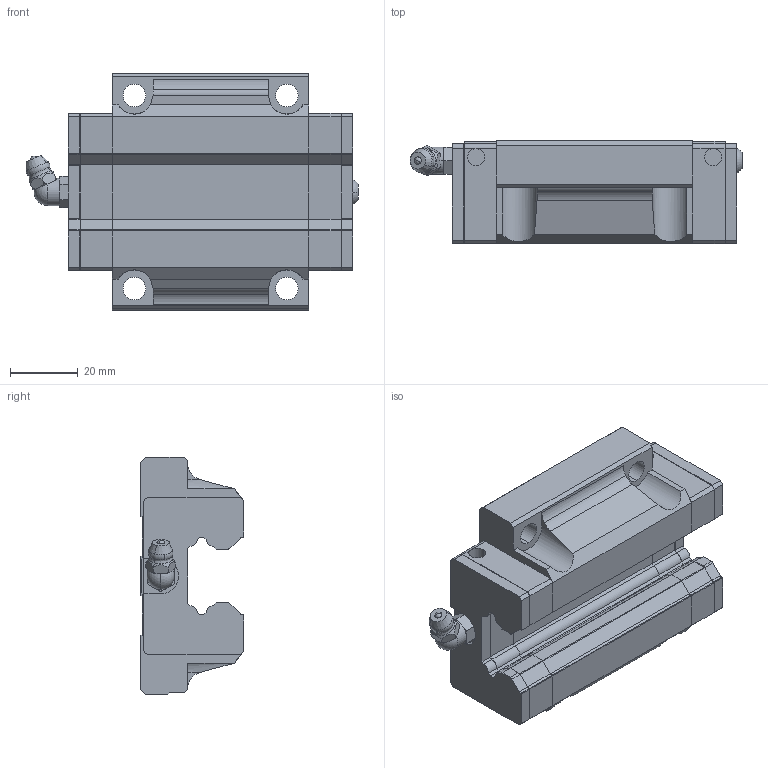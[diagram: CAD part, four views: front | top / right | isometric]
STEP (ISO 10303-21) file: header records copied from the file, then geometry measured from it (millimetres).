
FILE_DESCRIPTION (( 'STEP AP203' ), '1' );
FILE_NAME ('SGW25CA.STEP', '2025-06-27T05:54:31', ( 'Owner' ), ( 'Organization' ), 'SwSTEP 2.0', 'SolidWorks 2020', '' );
FILE_SCHEMA (( 'CONFIG_CONTROL_DESIGN' ));
Length unit declared in the file: millimetre
Products named in the file (1): SGW25CA
Bounding box: 98 x 30.5 x 70 mm (x, y, z)
Volume: 112918.9 mm3; surface area: 32282.3 mm2
Topology: 7 solids, 8 shells, 432 faces, 1145 edges, 735 vertices
Faces by surface type: plane 293, cylinder 108, cone 16, torus 7, sphere 6, bspline 2
Entity records: 13754 total; most frequent: CARTESIAN_POINT 2866, ORIENTED_EDGE 2282, DIRECTION 2222, EDGE_CURVE 1141, LINE 830, VECTOR 830, VERTEX_POINT 733, AXIS2_PLACEMENT_3D 696
